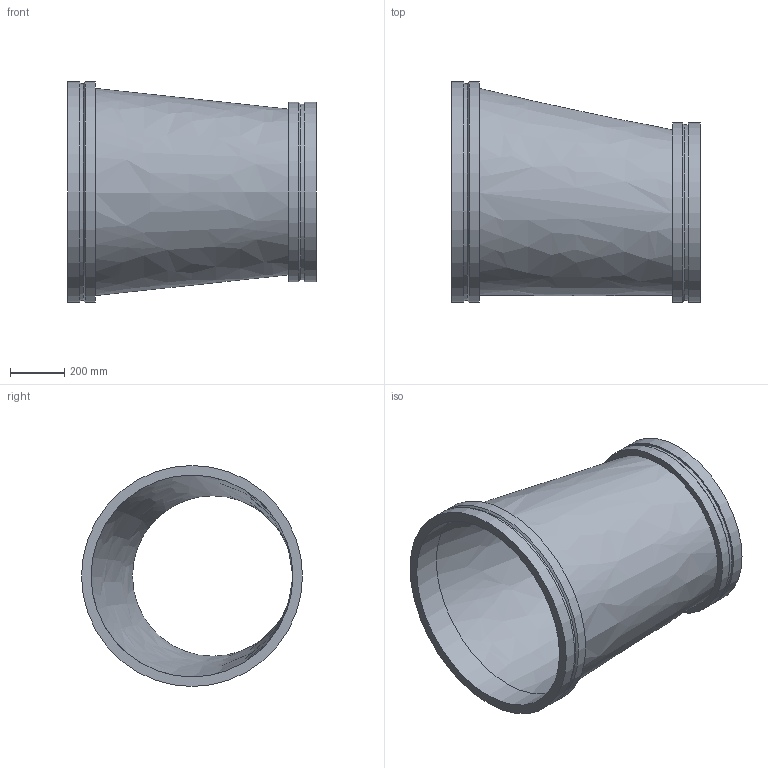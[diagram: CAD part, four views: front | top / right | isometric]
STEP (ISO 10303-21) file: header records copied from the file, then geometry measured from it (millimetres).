
FILE_DESCRIPTION(/* description */ ('VIC REDUCER ECCENTRIC No W51-VR','CAx-IF Rec.Pracs.---Representation and Presentation of Product Manufacturing Information (PMI)---4.0---2014-10-13'),/* implementation_level */ '2;1');
FILE_NAME(/* name */ 'C:\Users\kkamble\AppData\Roaming\Autodesk\ApplicationPlugins\Back Up\Victaulic_Vic-Ring_Reducer Eccentric_No W51 VR (AGR)\Victaulic_Vic-Ring_Reducer Eccentric_No W51 VR (AGR)_30.0x24.0 (750x600).stp',/* time_stamp */ '2020-09-10T11:50:04+05:00',/* author */ ('CONSTRUCTION PIPING SERVICES'),/* organization */ ('Victaulic'),/* preprocessor_version */ 'ST-DEVELOPER v17.2',/* originating_system */ 'Autodesk Inventor 2019',/* authorisation */ '');
FILE_SCHEMA (('AP242_MANAGED_MODEL_BASED_3D_ENGINEERING_MIM_LF { 1 0 10303 442 1 1 4 }'));
Length unit declared in the file: inch
Products named in the file (1): W51 VR-30.0x24.0
Bounding box: 914.4 x 812.8 x 812.8 mm (x, y, z)
Volume: 29502399.9 mm3; surface area: 4258336.6 mm2
Topology: 1 solids, 1 shells, 18 faces, 49 edges, 37 vertices
Faces by surface type: cylinder 8, plane 6, cone 2, bspline 2
Full cylindrical faces by diameter (mm): 590.55 x1, 645.922 x1, 660.4 x2, 742.95 x1, 798.322 x1, 812.8 x2
Entity records: 792 total; most frequent: CARTESIAN_POINT 158, DIRECTION 144, ORIENTED_EDGE 98, AXIS2_PLACEMENT_3D 67, EDGE_CURVE 49, CIRCLE 37, VERTEX_POINT 37, EDGE_LOOP 24
